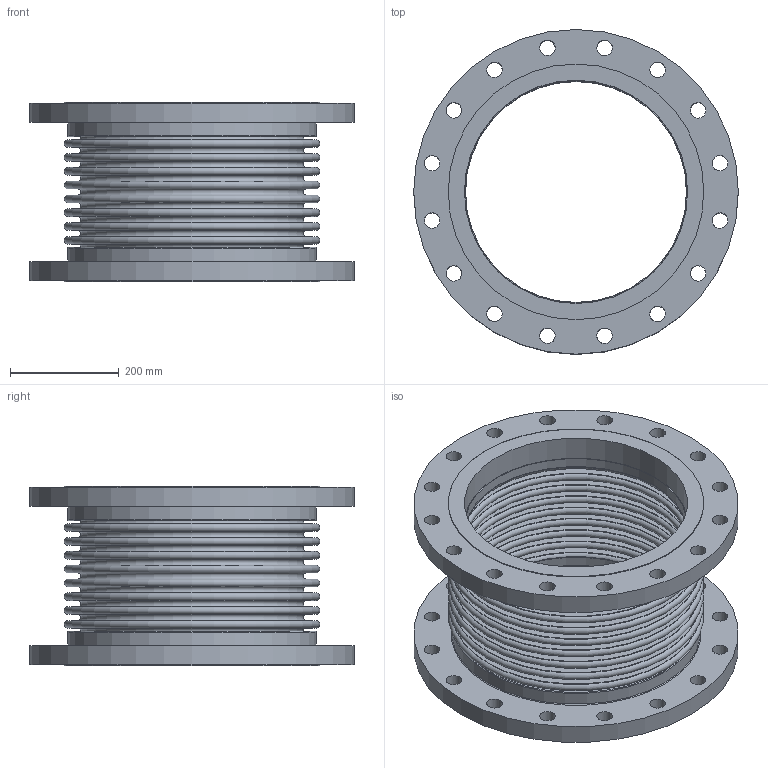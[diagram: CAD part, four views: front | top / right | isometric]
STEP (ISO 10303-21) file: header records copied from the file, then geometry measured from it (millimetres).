
FILE_DESCRIPTION(/* description */ ('EXPANSION JOINT,SINGLE, FLANGED ENDS,16 INCH','CAx-IF Rec.Pracs.---Representation and Presentation of Product Manufacturing Information (PMI)---4.0---2014-10-13'),/* implementation_level */ '2;1');
FILE_NAME(/* name */ 'US-16-8-85S-FLANGED ENDS.stp',/* time_stamp */ '2026-07-31T18:02:06-05:00',/* author */ ('Guadalupe'),/* organization */ (''),/* preprocessor_version */ 'ST-DEVELOPER v20.1',/* originating_system */ 'Autodesk Inventor 2026',/* authorisation */ '');
FILE_SCHEMA (('AP242_MANAGED_MODEL_BASED_3D_ENGINEERING_MIM_LF { 1 0 10303 442 2 1 4 }'));
Length unit declared in the file: inch
Products named in the file (3): 16-85S; 16-85S-02; 16-85S-01
Assembly tree (3 placements, depth 2):
  16-85S
    16-85S-02  x2
    16-85S-01
Bounding box: 596.9 x 596.9 x 330.2 mm (x, y, z)
Volume: 12535539 mm3; surface area: 2794045.5 mm2
Topology: 5 solids, 5 shells, 128 faces, 246 edges, 164 vertices
Faces by surface type: plane 46, cylinder 44, torus 38
Full cylindrical faces by diameter (mm): 28.575 x32, 406.4 x2, 408.838 x2, 410.464 x2, 457.2 x2, 469.9 x2, 596.9 x2
Entity records: 2870 total; most frequent: DIRECTION 578, CARTESIAN_POINT 425, ORIENTED_EDGE 360, AXIS2_PLACEMENT_3D 277, EDGE_CURVE 180, EDGE_LOOP 176, CIRCLE 156, VERTEX_POINT 120
